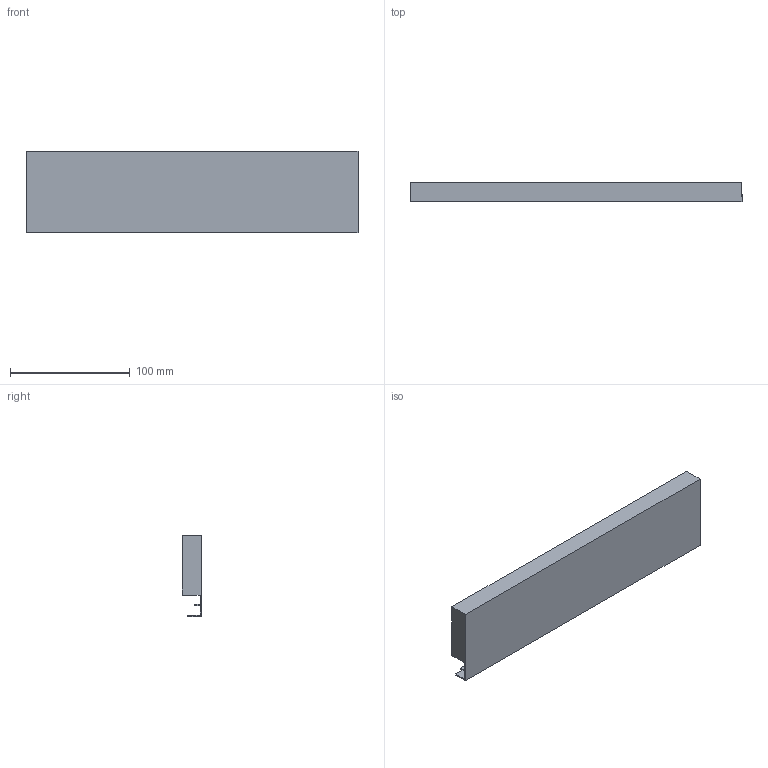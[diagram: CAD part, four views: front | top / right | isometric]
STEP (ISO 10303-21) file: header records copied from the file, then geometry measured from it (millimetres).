
FILE_DESCRIPTION (( 'STEP AP214' ), '1' );
FILE_NAME ('Innenschub-Blendenprofil_KAB400_S16.step', '2010-09-23T12:26:47', ( 'grass' ), ( '' ), 'SwSTEP 2.0', 'SolidWorks 2010', '' );
FILE_SCHEMA (( 'AUTOMOTIVE_DESIGN' ));
Length unit declared in the file: millimetre
Products named in the file (1): Innenschub-Blendenprofil_KAB400_S16
Bounding box: 277 x 15.9 x 67.6 mm (x, y, z)
Volume: 229649.2 mm3; surface area: 56040.4 mm2
Topology: 1 solids, 1 shells, 17 faces, 42 edges, 28 vertices
Faces by surface type: plane 15, cylinder 2
Entity records: 534 total; most frequent: CARTESIAN_POINT 88, ORIENTED_EDGE 84, DIRECTION 82, EDGE_CURVE 42, LINE 38, VECTOR 38, VERTEX_POINT 28, AXIS2_PLACEMENT_3D 22
